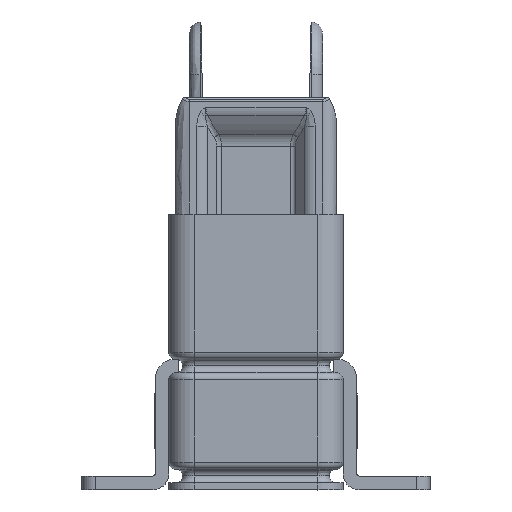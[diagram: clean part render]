
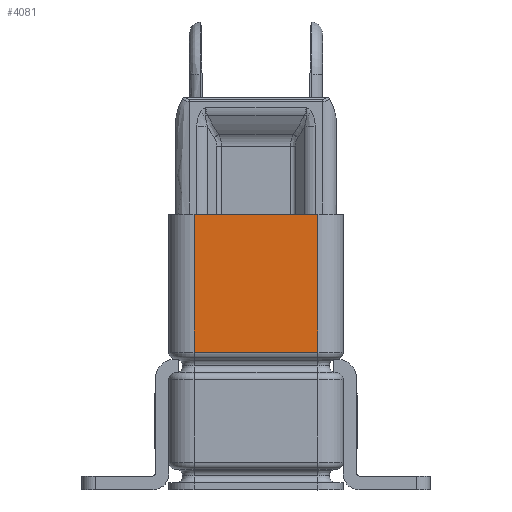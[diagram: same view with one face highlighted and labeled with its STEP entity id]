
A CAD part, top view. The second image highlights one B-rep face of the part: STEP entity #4081.
In plain terms, the highlighted planar face has unit normal (0, 0, 1).
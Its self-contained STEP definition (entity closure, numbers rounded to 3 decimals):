
#924=CARTESIAN_POINT('',(13.5,60.,38.));
#925=VERTEX_POINT('',#924);
#956=CARTESIAN_POINT('',(13.5,30.,38.));
#957=VERTEX_POINT('',#956);
#958=CARTESIAN_POINT('',(13.5,60.,38.));
#959=DIRECTION('',(0.0,-1.0,0.0));
#960=VECTOR('',#959,30.);
#961=LINE('',#958,#960);
#962=EDGE_CURVE('',#925,#957,#961,.T.);
#4038=CARTESIAN_POINT('',(-13.5,30.,38.));
#4039=VERTEX_POINT('',#4038);
#4040=CARTESIAN_POINT('',(13.5,30.,38.));
#4041=DIRECTION('',(-1.0,0.0,0.0));
#4042=VECTOR('',#4041,27.);
#4043=LINE('',#4040,#4042);
#4044=EDGE_CURVE('',#957,#4039,#4043,.T.);
#4058=CARTESIAN_POINT('',(28.5,60.,38.));
#4059=DIRECTION('',(0.0,0.0,1.0));
#4060=DIRECTION('',(1.0,0.0,0.0));
#4061=AXIS2_PLACEMENT_3D('',#4058,#4059,#4060);
#4062=PLANE('',#4061);
#4063=CARTESIAN_POINT('',(-13.5,60.,38.));
#4064=VERTEX_POINT('',#4063);
#4065=CARTESIAN_POINT('',(13.5,60.,38.));
#4066=DIRECTION('',(-1.0,0.0,0.0));
#4067=VECTOR('',#4066,27.);
#4068=LINE('',#4065,#4067);
#4069=EDGE_CURVE('',#925,#4064,#4068,.T.);
#4070=ORIENTED_EDGE('',*,*,#4069,.T.);
#4071=CARTESIAN_POINT('',(-13.5,60.,38.));
#4072=DIRECTION('',(0.0,-1.0,0.0));
#4073=VECTOR('',#4072,30.);
#4074=LINE('',#4071,#4073);
#4075=EDGE_CURVE('',#4064,#4039,#4074,.T.);
#4076=ORIENTED_EDGE('',*,*,#4075,.T.);
#4077=ORIENTED_EDGE('',*,*,#4044,.F.);
#4078=ORIENTED_EDGE('',*,*,#962,.F.);
#4079=EDGE_LOOP('',(#4070,#4076,#4077,#4078));
#4080=FACE_OUTER_BOUND('',#4079,.T.);
#4081=ADVANCED_FACE('',(#4080),#4062,.T.);
